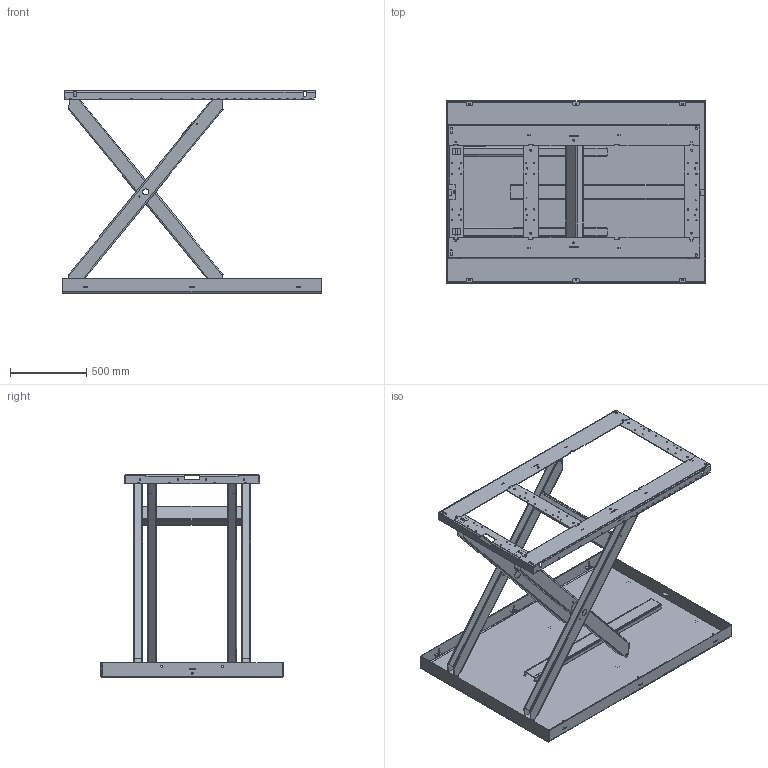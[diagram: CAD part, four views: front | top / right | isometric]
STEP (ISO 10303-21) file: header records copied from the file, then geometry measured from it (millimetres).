
FILE_DESCRIPTION(/* description */ ('TM 1500B 1700x1200'),/* implementation_level */ '2;1');
FILE_NAME(/* name */ 'C:\Autodesk_VaultWork\Ritningar\30000-39999\33000-33999\33145_Raised.stp',/* time_stamp */ '2020-01-13T10:19:32+01:00',/* author */ ('johso'),/* organization */ (''),/* preprocessor_version */ 'ST-DEVELOPER v16.5',/* originating_system */ 'Autodesk Inventor 2017',/* authorisation */ '');
FILE_SCHEMA (('AUTOMOTIVE_DESIGN { 1 0 10303 214 3 1 1 }'));
Length unit declared in the file: millimetre
Products named in the file (24): 33145.tmp; 35872; 35871-3; 35871-2; 44870; 35871-1; 612061; 33146; 33146-1; 42754; 45259; 45387; 80131; 85955; 41333-1175; 34264; 33144; 33139; 82148-1610; 82147 - 650; 33143; 33138; 82148-1610_1; 43891
Assembly tree (43 placements, depth 5):
  33145.tmp
    35872
      35871-3
      35871-2  x2
      45259  x2
      44870  x2
      35871-1
      612061
    33146
      33146-1
      42754  x2
      45259  x2
      45387  x8
      80131  x6
      85955
      41333-1175
    34264
      33144
        33139  x2
          82148-1610
        82147 - 650
      33143
        33138  x2
          82148-1610_1
      43891
Bounding box: 1700 x 1200 x 1330 mm (x, y, z)
Volume: 29307966.2 mm3; surface area: 11459225.6 mm2
Topology: 35 solids, 35 shells, 1628 faces, 4558 edges, 3003 vertices
Faces by surface type: cylinder 829, plane 755, cone 44
Full cylindrical faces by diameter (mm): 5.55 x4, 7.4 x42, 8 x6, 10.481 x4, 11.63 x6, 12.5 x6, 13 x6, 13.835 x1, 14.2 x16, 18.5 x1, 19 x1, 28.1 x4, 40.2 x4, 60 x4
Entity records: 38527 total; most frequent: CARTESIAN_POINT 6868, DIRECTION 6684, ORIENTED_EDGE 6310, EDGE_CURVE 3155, AXIS2_PLACEMENT_3D 2389, VERTEX_POINT 2119, LINE 1906, VECTOR 1906
